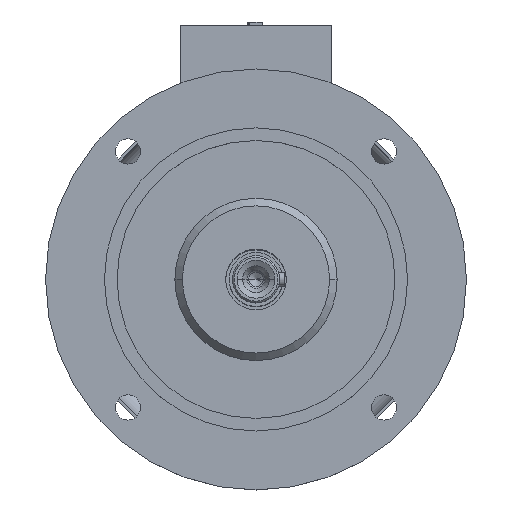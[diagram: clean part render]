
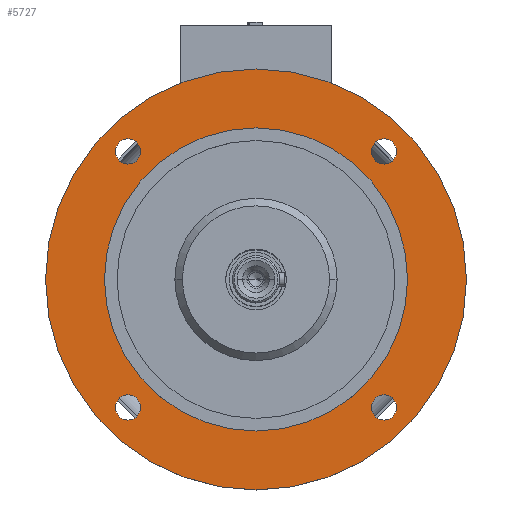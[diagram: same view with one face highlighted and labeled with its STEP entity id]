
A CAD part, top view. The second image highlights one B-rep face of the part: STEP entity #5727.
In plain terms, the highlighted planar face has unit normal (0, 0, 1).
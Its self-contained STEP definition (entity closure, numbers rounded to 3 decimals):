
#164 = VERTEX_POINT ( 'NONE', #11609 ) ;
#360 = ORIENTED_EDGE ( 'NONE', *, *, #18180, .F. ) ;
#402 = CARTESIAN_POINT ( 'NONE',  ( -76.014, -76.014, 140. ) ) ;
#415 = EDGE_LOOP ( 'NONE', ( #360, #7969 ) ) ;
#443 = CARTESIAN_POINT ( 'NONE',  ( -76.014, 76.014, 140. ) ) ;
#462 = EDGE_CURVE ( 'NONE', #4858, #4662, #1886, .T. ) ;
#614 = EDGE_LOOP ( 'NONE', ( #18459, #7204 ) ) ;
#647 = AXIS2_PLACEMENT_3D ( 'NONE', #13312, #1936, #17651 ) ;
#803 = ORIENTED_EDGE ( 'NONE', *, *, #13415, .F. ) ;
#818 = CARTESIAN_POINT ( 'NONE',  ( 0., 125., 140. ) ) ;
#912 = EDGE_LOOP ( 'NONE', ( #5128, #9637 ) ) ;
#929 = DIRECTION ( 'NONE',  ( 0., 0., 1. ) ) ;
#1045 = DIRECTION ( 'NONE',  ( 1., 0., 0. ) ) ;
#1160 = CARTESIAN_POINT ( 'NONE',  ( 125., 0., 140. ) ) ;
#1217 = DIRECTION ( 'NONE',  ( -1., 0., 0. ) ) ;
#1328 = VERTEX_POINT ( 'NONE', #16148 ) ;
#1349 = DIRECTION ( 'NONE',  ( 0., 0., -1. ) ) ;
#1402 = DIRECTION ( 'NONE',  ( 0., 0., -1. ) ) ;
#1646 = VERTEX_POINT ( 'NONE', #1160 ) ;
#1663 = EDGE_CURVE ( 'NONE', #4052, #12255, #16597, .T. ) ;
#1886 = CIRCLE ( 'NONE', #2518, 7.5 ) ;
#1920 = EDGE_CURVE ( 'NONE', #12255, #4052, #2264, .T. ) ;
#1936 = DIRECTION ( 'NONE',  ( 0., 0., -1. ) ) ;
#1948 = AXIS2_PLACEMENT_3D ( 'NONE', #13011, #4462, #14457 ) ;
#2264 = CIRCLE ( 'NONE', #647, 90. ) ;
#2413 = AXIS2_PLACEMENT_3D ( 'NONE', #7127, #1349, #15591 ) ;
#2518 = AXIS2_PLACEMENT_3D ( 'NONE', #18262, #4046, #8092 ) ;
#2611 = CARTESIAN_POINT ( 'NONE',  ( -90., 0., 140. ) ) ;
#2642 = FACE_BOUND ( 'NONE', #16553, .T. ) ;
#3286 = DIRECTION ( 'NONE',  ( 0., 0., 1. ) ) ;
#3536 = DIRECTION ( 'NONE',  ( 1., 0., 0. ) ) ;
#3607 = PLANE ( 'NONE',  #15315 ) ;
#3861 = DIRECTION ( 'NONE',  ( 0., 0., 1. ) ) ;
#3878 = DIRECTION ( 'NONE',  ( 0., 0., -1. ) ) ;
#4046 = DIRECTION ( 'NONE',  ( 0., 0., 1. ) ) ;
#4052 = VERTEX_POINT ( 'NONE', #16773 ) ;
#4189 = AXIS2_PLACEMENT_3D ( 'NONE', #12103, #929, #3536 ) ;
#4236 = ORIENTED_EDGE ( 'NONE', *, *, #462, .F. ) ;
#4462 = DIRECTION ( 'NONE',  ( 0., 0., 1. ) ) ;
#4605 = VERTEX_POINT ( 'NONE', #15143 ) ;
#4662 = VERTEX_POINT ( 'NONE', #15441 ) ;
#4702 = EDGE_CURVE ( 'NONE', #1646, #10001, #10487, .T. ) ;
#4858 = VERTEX_POINT ( 'NONE', #10833 ) ;
#5128 = ORIENTED_EDGE ( 'NONE', *, *, #16596, .F. ) ;
#5571 = FACE_OUTER_BOUND ( 'NONE', #614, .T. ) ;
#5727 = ADVANCED_FACE ( 'NONE', ( #15635, #6436, #14063, #8455, #2642, #5571 ), #3607, .T. ) ;
#5966 = EDGE_CURVE ( 'NONE', #12805, #1328, #10895, .T. ) ;
#6210 = EDGE_CURVE ( 'NONE', #4662, #4858, #11799, .T. ) ;
#6436 = FACE_BOUND ( 'NONE', #15656, .T. ) ;
#7127 = CARTESIAN_POINT ( 'NONE',  ( 0., 0., 140. ) ) ;
#7204 = ORIENTED_EDGE ( 'NONE', *, *, #4702, .F. ) ;
#7334 = EDGE_CURVE ( 'NONE', #10001, #1646, #7725, .T. ) ;
#7425 = ORIENTED_EDGE ( 'NONE', *, *, #6210, .F. ) ;
#7471 = CIRCLE ( 'NONE', #4189, 7.5 ) ;
#7640 = CARTESIAN_POINT ( 'NONE',  ( -83.514, 76.014, 140. ) ) ;
#7725 = CIRCLE ( 'NONE', #16545, 125. ) ;
#7969 = ORIENTED_EDGE ( 'NONE', *, *, #13707, .F. ) ;
#8092 = DIRECTION ( 'NONE',  ( 0., 1., 0. ) ) ;
#8455 = FACE_BOUND ( 'NONE', #912, .T. ) ;
#8741 = DIRECTION ( 'NONE',  ( 0., 0., 1. ) ) ;
#9417 = CARTESIAN_POINT ( 'NONE',  ( -68.514, -76.014, 140. ) ) ;
#9551 = DIRECTION ( 'NONE',  ( -1., 0., 0. ) ) ;
#9637 = ORIENTED_EDGE ( 'NONE', *, *, #12705, .F. ) ;
#10001 = VERTEX_POINT ( 'NONE', #12033 ) ;
#10261 = AXIS2_PLACEMENT_3D ( 'NONE', #16456, #16387, #17800 ) ;
#10487 = CIRCLE ( 'NONE', #11207, 125. ) ;
#10833 = CARTESIAN_POINT ( 'NONE',  ( 83.514, 76.014, 140. ) ) ;
#10895 = CIRCLE ( 'NONE', #11722, 7.5 ) ;
#11207 = AXIS2_PLACEMENT_3D ( 'NONE', #18356, #3878, #9551 ) ;
#11609 = CARTESIAN_POINT ( 'NONE',  ( 83.514, -76.014, 140. ) ) ;
#11661 = CARTESIAN_POINT ( 'NONE',  ( 68.514, -76.014, 140. ) ) ;
#11722 = AXIS2_PLACEMENT_3D ( 'NONE', #443, #3286, #17461 ) ;
#11758 = DIRECTION ( 'NONE',  ( 0., -1., 0. ) ) ;
#11799 = CIRCLE ( 'NONE', #16757, 7.5 ) ;
#12033 = CARTESIAN_POINT ( 'NONE',  ( -125., 0., 140. ) ) ;
#12103 = CARTESIAN_POINT ( 'NONE',  ( 76.014, -76.014, 140. ) ) ;
#12121 = CIRCLE ( 'NONE', #16735, 7.5 ) ;
#12255 = VERTEX_POINT ( 'NONE', #2611 ) ;
#12497 = ORIENTED_EDGE ( 'NONE', *, *, #1920, .T. ) ;
#12517 = CARTESIAN_POINT ( 'NONE',  ( 76.014, -76.014, 140. ) ) ;
#12705 = EDGE_CURVE ( 'NONE', #16241, #164, #7471, .T. ) ;
#12805 = VERTEX_POINT ( 'NONE', #7640 ) ;
#12945 = CARTESIAN_POINT ( 'NONE',  ( 76.014, 76.014, 140. ) ) ;
#13011 = CARTESIAN_POINT ( 'NONE',  ( -76.014, -76.014, 140. ) ) ;
#13014 = VERTEX_POINT ( 'NONE', #9417 ) ;
#13059 = DIRECTION ( 'NONE',  ( 0., 1., 0. ) ) ;
#13312 = CARTESIAN_POINT ( 'NONE',  ( 0., 0., 140. ) ) ;
#13415 = EDGE_CURVE ( 'NONE', #1328, #12805, #16389, .T. ) ;
#13707 = EDGE_CURVE ( 'NONE', #4605, #13014, #12121, .T. ) ;
#13957 = DIRECTION ( 'NONE',  ( 0., 0., 1. ) ) ;
#14063 = FACE_BOUND ( 'NONE', #16107, .T. ) ;
#14227 = ORIENTED_EDGE ( 'NONE', *, *, #5966, .F. ) ;
#14457 = DIRECTION ( 'NONE',  ( 0., -1., 0. ) ) ;
#15143 = CARTESIAN_POINT ( 'NONE',  ( -83.514, -76.014, 140. ) ) ;
#15304 = DIRECTION ( 'NONE',  ( 1., 0., 0. ) ) ;
#15315 = AXIS2_PLACEMENT_3D ( 'NONE', #818, #3861, #15304 ) ;
#15441 = CARTESIAN_POINT ( 'NONE',  ( 68.514, 76.014, 140. ) ) ;
#15591 = DIRECTION ( 'NONE',  ( -1., 0., 0. ) ) ;
#15635 = FACE_BOUND ( 'NONE', #415, .T. ) ;
#15656 = EDGE_LOOP ( 'NONE', ( #803, #14227 ) ) ;
#16015 = DIRECTION ( 'NONE',  ( 0., 0., 1. ) ) ;
#16107 = EDGE_LOOP ( 'NONE', ( #4236, #7425 ) ) ;
#16148 = CARTESIAN_POINT ( 'NONE',  ( -68.514, 76.014, 140. ) ) ;
#16241 = VERTEX_POINT ( 'NONE', #11661 ) ;
#16387 = DIRECTION ( 'NONE',  ( 0., 0., 1. ) ) ;
#16389 = CIRCLE ( 'NONE', #10261, 7.5 ) ;
#16456 = CARTESIAN_POINT ( 'NONE',  ( -76.014, 76.014, 140. ) ) ;
#16545 = AXIS2_PLACEMENT_3D ( 'NONE', #16699, #1402, #1217 ) ;
#16553 = EDGE_LOOP ( 'NONE', ( #12497, #16722 ) ) ;
#16596 = EDGE_CURVE ( 'NONE', #164, #16241, #17838, .T. ) ;
#16597 = CIRCLE ( 'NONE', #2413, 90. ) ;
#16699 = CARTESIAN_POINT ( 'NONE',  ( 0., 0., 140. ) ) ;
#16722 = ORIENTED_EDGE ( 'NONE', *, *, #1663, .T. ) ;
#16735 = AXIS2_PLACEMENT_3D ( 'NONE', #402, #16015, #11758 ) ;
#16757 = AXIS2_PLACEMENT_3D ( 'NONE', #12945, #8741, #13059 ) ;
#16773 = CARTESIAN_POINT ( 'NONE',  ( 90., 0., 140. ) ) ;
#17461 = DIRECTION ( 'NONE',  ( -1., 0., 0. ) ) ;
#17651 = DIRECTION ( 'NONE',  ( -1., 0., 0. ) ) ;
#17800 = DIRECTION ( 'NONE',  ( -1., 0., 0. ) ) ;
#17821 = AXIS2_PLACEMENT_3D ( 'NONE', #12517, #13957, #1045 ) ;
#17838 = CIRCLE ( 'NONE', #17821, 7.5 ) ;
#18180 = EDGE_CURVE ( 'NONE', #13014, #4605, #18481, .T. ) ;
#18262 = CARTESIAN_POINT ( 'NONE',  ( 76.014, 76.014, 140. ) ) ;
#18356 = CARTESIAN_POINT ( 'NONE',  ( 0., 0., 140. ) ) ;
#18459 = ORIENTED_EDGE ( 'NONE', *, *, #7334, .F. ) ;
#18481 = CIRCLE ( 'NONE', #1948, 7.5 ) ;
